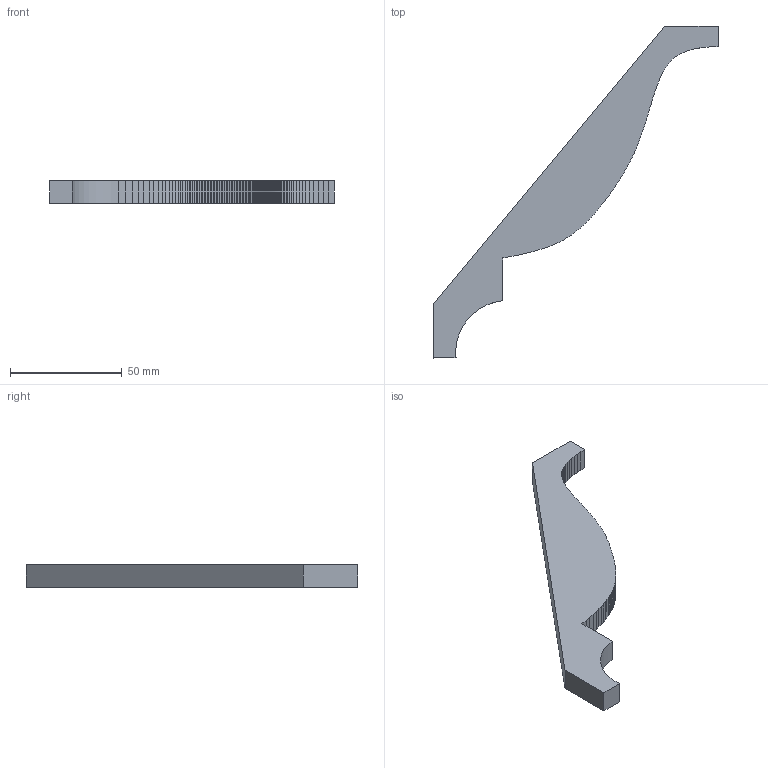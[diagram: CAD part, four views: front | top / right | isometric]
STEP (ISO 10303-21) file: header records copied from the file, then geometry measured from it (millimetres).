
FILE_DESCRIPTION (( 'STEP AP203' ), '1' );
FILE_NAME ('AB505FJ.STEP', '2024-02-22T13:07:43', ( '' ), ( '' ), 'SwSTEP 2.0', 'SolidWorks 2020', '' );
FILE_SCHEMA (( 'CONFIG_CONTROL_DESIGN' ));
Length unit declared in the file: millimetre
Products named in the file (1): AB505FJ
Bounding box: 127.44 x 148.75 x 10 mm (x, y, z)
Volume: 38236.1 mm3; surface area: 11968.3 mm2
Topology: 1 solids, 1 shells, 117 faces, 345 edges, 230 vertices
Faces by surface type: plane 116, cylinder 1
Entity records: 3898 total; most frequent: CARTESIAN_POINT 693, ORIENTED_EDGE 690, DIRECTION 583, EDGE_CURVE 345, VECTOR 343, LINE 343, VERTEX_POINT 230, AXIS2_PLACEMENT_3D 120
